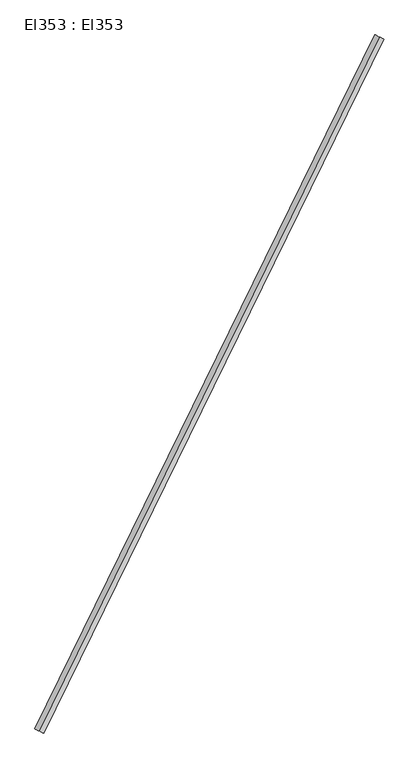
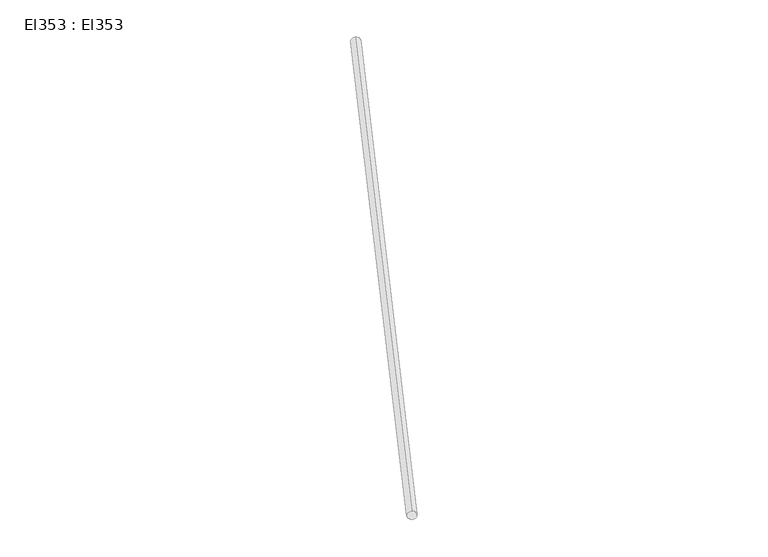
"""IFC4 building model written with IfcOpenShell, lengths in millimetres: cable carrier segment geometry, El353 : El353."""

from ifc_helpers import new_model, si_unit, point, frame, frame_2d, origin, place, context, project, spatial, circle_curve, trimmed, segment, composite_curve, outline, extrude, source, transform, mapped, element, save


def el353_el353_dd41a664(model_context):
    return source(origin(), model_context, "Body", "SweptSolid", [
        extrude(outline(composite_curve([segment(trimmed(circle_curve(frame_2d((0.0, -9.5)), 9.5), [point((0.0, -19.0))], [point((0.0, 0.0))], False, "CARTESIAN"), True, "CONTINUOUS"), segment(trimmed(circle_curve(frame_2d((0.0, -9.5)), 9.5), [point((0.0, 0.0))], [point((0.0, -19.0))], False, "CARTESIAN"), True, "CONTINUOUS")], self_intersect=False)), frame((4568.501, 14766.333, 2959.5), z_axis=(0.4400260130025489, 0.8979850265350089, 0.0), x_axis=(-0.8979850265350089, 0.4400260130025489, 0.0)), (0.0, 0.0, 1.0), 1517.77),
    ])


if __name__ == "__main__":
    model = new_model("IFC4")
    model_context = context("Model", 3, world=origin())
    ifc_project = project(units=[si_unit("LENGTHUNIT", "METRE", prefix="MILLI")], contexts=[model_context])
    site = spatial("IfcSite", under=ifc_project)
    building = spatial("IfcBuilding", under=site)
    placement = place(None, origin())
    el353_el353_shape = el353_el353_dd41a664(model_context)
    element("IfcCableCarrierSegment", 1, ObjectType="El353 : El353", at=placement, inside=building, context=model_context, shape_type="MappedRepresentation", body=[
        mapped(el353_el353_shape, transform((0.0, 0.0, 0.0), x_axis=(1.0, 0.0, 0.0), y_axis=(0.0, 1.0, 0.0), z_axis=(0.0, 0.0, 1.0))),
    ])
    save(model, "model.ifc")
